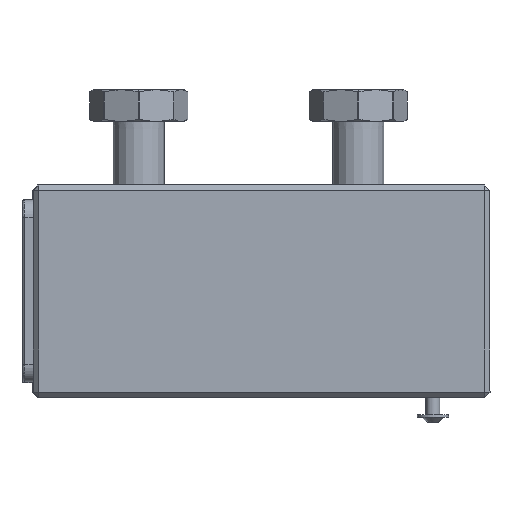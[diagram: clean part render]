
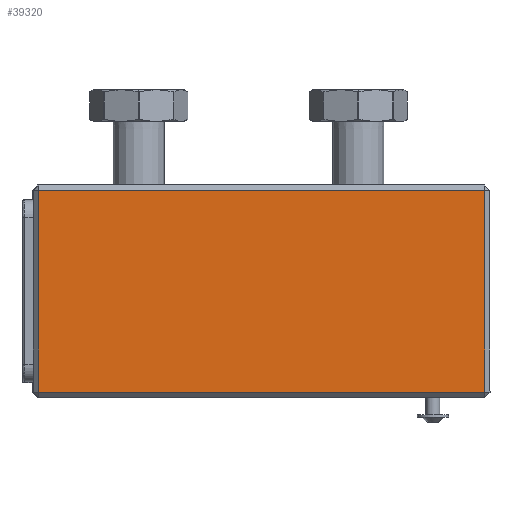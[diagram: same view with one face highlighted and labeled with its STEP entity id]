
A CAD part, front view. The second image highlights one B-rep face of the part: STEP entity #39320.
In plain terms, the highlighted planar face has unit normal (0, -1, 0).
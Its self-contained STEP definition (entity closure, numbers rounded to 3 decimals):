
#752 = DIRECTION ( 'NONE',  ( 0., -1., 0. ) ) ;
#1176 = VERTEX_POINT ( 'NONE', #28282 ) ;
#2248 = LINE ( 'NONE', #18842, #29732 ) ;
#2667 = AXIS2_PLACEMENT_3D ( 'NONE', #8142, #752, #4334 ) ;
#4334 = DIRECTION ( 'NONE',  ( 0., 0., -1. ) ) ;
#4715 = LINE ( 'NONE', #18373, #23636 ) ;
#6001 = ORIENTED_EDGE ( 'NONE', *, *, #16766, .T. ) ;
#6597 = EDGE_CURVE ( 'NONE', #13188, #41314, #2248, .T. ) ;
#7914 = FACE_OUTER_BOUND ( 'NONE', #22747, .T. ) ;
#8142 = CARTESIAN_POINT ( 'NONE',  ( 1848.951, -30.001, 646.399 ) ) ;
#8165 = LINE ( 'NONE', #20935, #25247 ) ;
#9115 = ORIENTED_EDGE ( 'NONE', *, *, #29677, .T. ) ;
#9861 = CARTESIAN_POINT ( 'NONE',  ( 1728.951, -30.001, 528.399 ) ) ;
#9918 = VERTEX_POINT ( 'NONE', #9861 ) ;
#11087 = DIRECTION ( 'NONE',  ( 1., 0., 0. ) ) ;
#13188 = VERTEX_POINT ( 'NONE', #31503 ) ;
#14005 = ORIENTED_EDGE ( 'NONE', *, *, #6597, .T. ) ;
#14192 = LINE ( 'NONE', #31892, #40604 ) ;
#15199 = ORIENTED_EDGE ( 'NONE', *, *, #32548, .T. ) ;
#16766 = EDGE_CURVE ( 'NONE', #41314, #9918, #4715, .T. ) ;
#18373 = CARTESIAN_POINT ( 'NONE',  ( 1728.951, -30.001, 646.399 ) ) ;
#18842 = CARTESIAN_POINT ( 'NONE',  ( 1848.951, -30.001, 643.399 ) ) ;
#20935 = CARTESIAN_POINT ( 'NONE',  ( 1848.951, -30.001, 528.399 ) ) ;
#21971 = DIRECTION ( 'NONE',  ( 0., 0., -1. ) ) ;
#22747 = EDGE_LOOP ( 'NONE', ( #6001, #9115, #15199, #14005 ) ) ;
#23636 = VECTOR ( 'NONE', #21971, 1000. ) ;
#24265 = DIRECTION ( 'NONE',  ( 0., 0., 1. ) ) ;
#24726 = PLANE ( 'NONE',  #2667 ) ;
#25247 = VECTOR ( 'NONE', #11087, 1000. ) ;
#25895 = CARTESIAN_POINT ( 'NONE',  ( 1728.951, -30.001, 643.399 ) ) ;
#28282 = CARTESIAN_POINT ( 'NONE',  ( 1982.951, -30.001, 528.399 ) ) ;
#29677 = EDGE_CURVE ( 'NONE', #9918, #1176, #8165, .T. ) ;
#29732 = VECTOR ( 'NONE', #39927, 1000. ) ;
#31503 = CARTESIAN_POINT ( 'NONE',  ( 1982.951, -30.001, 643.399 ) ) ;
#31892 = CARTESIAN_POINT ( 'NONE',  ( 1982.951, -30.001, 646.399 ) ) ;
#32548 = EDGE_CURVE ( 'NONE', #1176, #13188, #14192, .T. ) ;
#39320 = ADVANCED_FACE ( 'NONE', ( #7914 ), #24726, .T. ) ;
#39927 = DIRECTION ( 'NONE',  ( -1., 0., 0. ) ) ;
#40604 = VECTOR ( 'NONE', #24265, 1000. ) ;
#41314 = VERTEX_POINT ( 'NONE', #25895 ) ;
